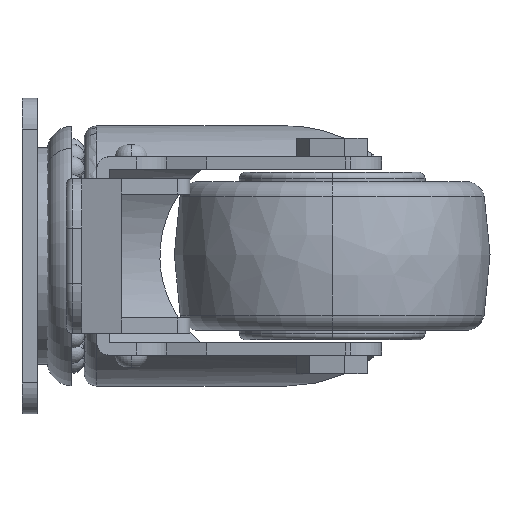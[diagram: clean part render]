
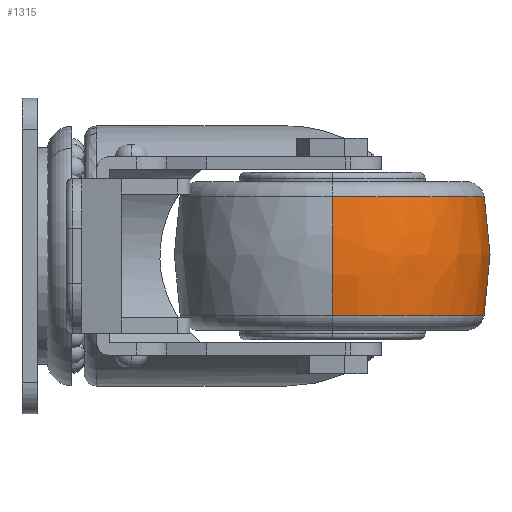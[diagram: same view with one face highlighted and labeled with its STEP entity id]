
A CAD part, left-side view. The second image highlights one B-rep face of the part: STEP entity #1315.
In plain terms, the highlighted free-form (B-spline) face has degree [2, 3] with [3, 4] control points.
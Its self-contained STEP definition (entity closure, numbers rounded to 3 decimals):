
#232 = EDGE_CURVE ( 'NONE', #1973, #4423, #4378, .T. ) ;
#298 =( BOUNDED_SURFACE ( )  B_SPLINE_SURFACE ( 2, 3, ( 
 ( #4223, #3616, #3017, #2391 ),
 ( #1795, #1176, #562, #5926 ),
 ( #5313, #4695, #4079, #3468 ) ),
 .UNSPECIFIED., .F., .F., .T. ) 
 B_SPLINE_SURFACE_WITH_KNOTS ( ( 3, 3 ),
 ( 4, 4 ),
 ( 0.073, 0.63 ),
 ( 0., 1. ),
 .UNSPECIFIED. ) 
 GEOMETRIC_REPRESENTATION_ITEM ( )  RATIONAL_B_SPLINE_SURFACE ( (
 ( 1., 0.333, 0.333, 1.),
 ( 1., 0.333, 0.333, 1.),
 ( 1., 0.333, 0.333, 1.) ) ) 
 REPRESENTATION_ITEM ( '' )  SURFACE ( )  );
#495 = DIRECTION ( 'NONE',  ( 0., 0., -1. ) ) ;
#562 = CARTESIAN_POINT ( 'NONE',  ( 26.425, -52.851, 0.36 ) ) ;
#565 = CARTESIAN_POINT ( 'NONE',  ( 0., 0., -9.565 ) ) ;
#763 = B_SPLINE_CURVE_WITH_KNOTS ( 'NONE', 2,
 ( #5605, #5009, #4381 ),
 .UNSPECIFIED., .F., .F.,
 ( 3, 3 ),
 ( 0.073, 0.63 ),
 .UNSPECIFIED. ) ;
#1005 = ORIENTED_EDGE ( 'NONE', *, *, #4397, .F. ) ;
#1091 = CARTESIAN_POINT ( 'NONE',  ( 0., 0., 9.596 ) ) ;
#1176 = CARTESIAN_POINT ( 'NONE',  ( -26.425, -52.851, 0.36 ) ) ;
#1315 = ADVANCED_FACE ( 'NONE', ( #1590 ), #298, .T. ) ;
#1330 = AXIS2_PLACEMENT_3D ( 'NONE', #565, #5930, #5319 ) ;
#1551 = CARTESIAN_POINT ( 'NONE',  ( -24.521, 0., -9.565 ) ) ;
#1590 = FACE_OUTER_BOUND ( 'NONE', #5201, .T. ) ;
#1738 = CARTESIAN_POINT ( 'NONE',  ( -24.554, 0., 9.596 ) ) ;
#1795 = CARTESIAN_POINT ( 'NONE',  ( -26.425, 0., 0.36 ) ) ;
#1841 = VERTEX_POINT ( 'NONE', #5059 ) ;
#1973 = VERTEX_POINT ( 'NONE', #5659 ) ;
#2172 = CARTESIAN_POINT ( 'NONE',  ( -26.425, 0., 0.36 ) ) ;
#2391 = CARTESIAN_POINT ( 'NONE',  ( 24.554, 0., 9.596 ) ) ;
#2520 = ORIENTED_EDGE ( 'NONE', *, *, #5602, .T. ) ;
#2656 = B_SPLINE_CURVE_WITH_KNOTS ( 'NONE', 2,
 ( #2787, #2172, #1551 ),
 .UNSPECIFIED., .F., .F.,
 ( 3, 3 ),
 ( 0.073, 0.63 ),
 .UNSPECIFIED. ) ;
#2787 = CARTESIAN_POINT ( 'NONE',  ( -24.554, 0., 9.596 ) ) ;
#3017 = CARTESIAN_POINT ( 'NONE',  ( 24.554, -49.108, 9.596 ) ) ;
#3095 = AXIS2_PLACEMENT_3D ( 'NONE', #1091, #495, #5844 ) ;
#3267 = ORIENTED_EDGE ( 'NONE', *, *, #5273, .T. ) ;
#3368 = ORIENTED_EDGE ( 'NONE', *, *, #232, .T. ) ;
#3468 = CARTESIAN_POINT ( 'NONE',  ( 24.521, 0., -9.565 ) ) ;
#3616 = CARTESIAN_POINT ( 'NONE',  ( -24.554, -49.108, 9.596 ) ) ;
#3627 = CARTESIAN_POINT ( 'NONE',  ( 24.521, 0., -9.565 ) ) ;
#4079 = CARTESIAN_POINT ( 'NONE',  ( 24.521, -49.043, -9.565 ) ) ;
#4223 = CARTESIAN_POINT ( 'NONE',  ( -24.554, 0., 9.596 ) ) ;
#4264 = VERTEX_POINT ( 'NONE', #1738 ) ;
#4378 = CIRCLE ( 'NONE', #1330, 24.521 ) ;
#4381 = CARTESIAN_POINT ( 'NONE',  ( 24.521, 0., -9.565 ) ) ;
#4397 = EDGE_CURVE ( 'NONE', #1841, #4423, #763, .T. ) ;
#4423 = VERTEX_POINT ( 'NONE', #3627 ) ;
#4695 = CARTESIAN_POINT ( 'NONE',  ( -24.521, -49.043, -9.565 ) ) ;
#4872 = CIRCLE ( 'NONE', #3095, 24.554 ) ;
#5009 = CARTESIAN_POINT ( 'NONE',  ( 26.425, 0., 0.36 ) ) ;
#5059 = CARTESIAN_POINT ( 'NONE',  ( 24.554, 0., 9.596 ) ) ;
#5201 = EDGE_LOOP ( 'NONE', ( #2520, #3267, #3368, #1005 ) ) ;
#5273 = EDGE_CURVE ( 'NONE', #4264, #1973, #2656, .T. ) ;
#5313 = CARTESIAN_POINT ( 'NONE',  ( -24.521, 0., -9.565 ) ) ;
#5319 = DIRECTION ( 'NONE',  ( 1., 0., 0. ) ) ;
#5602 = EDGE_CURVE ( 'NONE', #1841, #4264, #4872, .T. ) ;
#5605 = CARTESIAN_POINT ( 'NONE',  ( 24.554, 0., 9.596 ) ) ;
#5659 = CARTESIAN_POINT ( 'NONE',  ( -24.521, 0., -9.565 ) ) ;
#5844 = DIRECTION ( 'NONE',  ( 1., 0., 0. ) ) ;
#5926 = CARTESIAN_POINT ( 'NONE',  ( 26.425, 0., 0.36 ) ) ;
#5930 = DIRECTION ( 'NONE',  ( 0., 0., 1. ) ) ;
